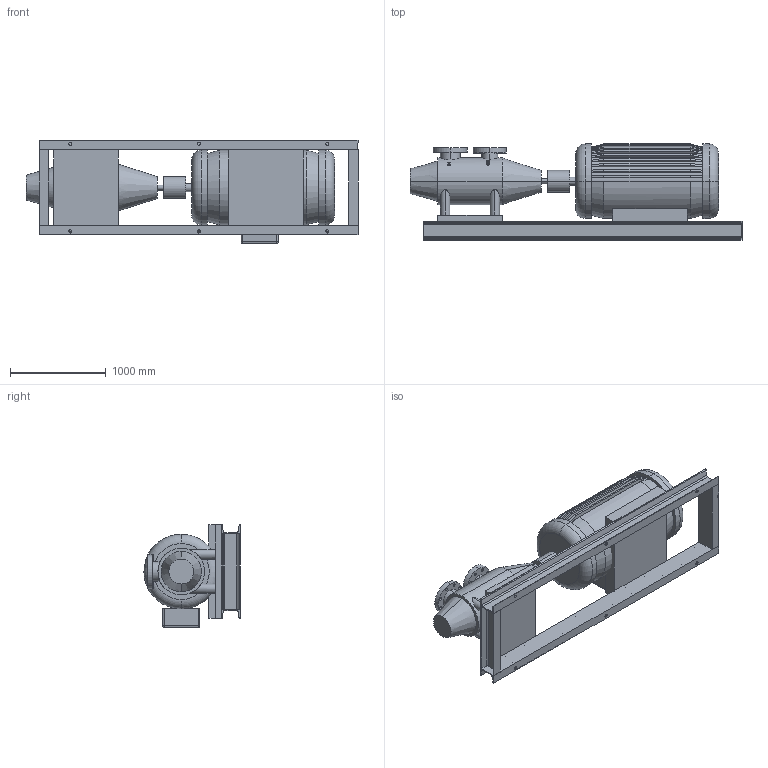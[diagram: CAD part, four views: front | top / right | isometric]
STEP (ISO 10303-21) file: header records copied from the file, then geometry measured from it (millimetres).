
FILE_DESCRIPTION (( 'STEP AP214' ), '1' );
FILE_NAME ('Open100 Feedwater Pump.STEP', '2020-08-20T14:10:39', ( '' ), ( '' ), 'SwSTEP 2.0', 'SolidWorks 2020', '' );
FILE_SCHEMA (( 'AUTOMOTIVE_DESIGN' ));
Length unit declared in the file: inch
Products named in the file (1): Open100 Feedwater Pump
Bounding box: 3472.61 x 1004.62 x 1077.94 mm (x, y, z)
Volume: 1096032946.3 mm3; surface area: 19078886.7 mm2
Topology: 13 solids, 13 shells, 405 faces, 972 edges, 614 vertices
Faces by surface type: plane 162, cylinder 158, cone 43, bspline 34, torus 4, sphere 4
Entity records: 24000 total; most frequent: CARTESIAN_POINT 14432, ORIENTED_EDGE 1936, DIRECTION 1922, EDGE_CURVE 968, AXIS2_PLACEMENT_3D 726, VERTEX_POINT 614, EDGE_LOOP 474, LINE 470
